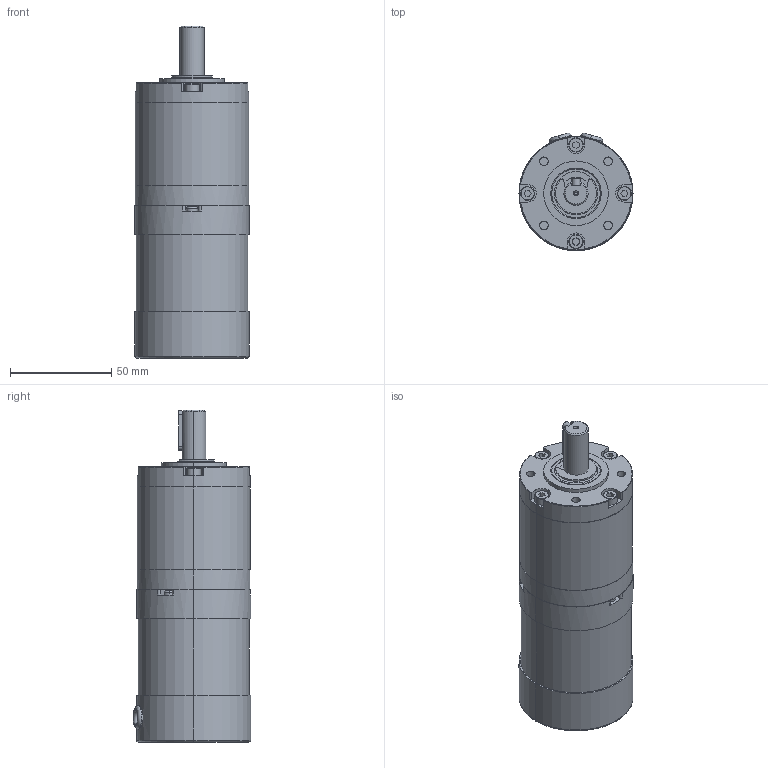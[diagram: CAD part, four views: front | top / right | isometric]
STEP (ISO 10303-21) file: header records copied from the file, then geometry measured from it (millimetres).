
FILE_DESCRIPTION (( 'STEP AP203' ), '1' );
FILE_NAME ('BLDC_Brushless_motor_57DMWH75_NEMA23_96to1-GearRatio_Phidgets_DCM4111_0.STEP', '2022-06-28T21:56:47', ( '' ), ( '' ), 'SwSTEP 2.0', 'SolidWorks 2020', '' );
FILE_SCHEMA (( 'CONFIG_CONTROL_DESIGN' ));
Length unit declared in the file: millimetre
Products named in the file (1): BLDC_Brushless_motor_57DMWH75_NEMA23_96to1-GearRatio_Phidgets_DCM4111_0
Bounding box: 56.45 x 58.19 x 164.3 mm (x, y, z)
Volume: 336330.1 mm3; surface area: 33194.2 mm2
Topology: 1 solids, 1 shells, 270 faces, 654 edges, 422 vertices
Faces by surface type: cylinder 113, plane 108, cone 23, bspline 16, torus 10
Entity records: 9581 total; most frequent: CARTESIAN_POINT 3061, DIRECTION 1412, ORIENTED_EDGE 1308, EDGE_CURVE 654, AXIS2_PLACEMENT_3D 559, VERTEX_POINT 422, EDGE_LOOP 306, CIRCLE 304
